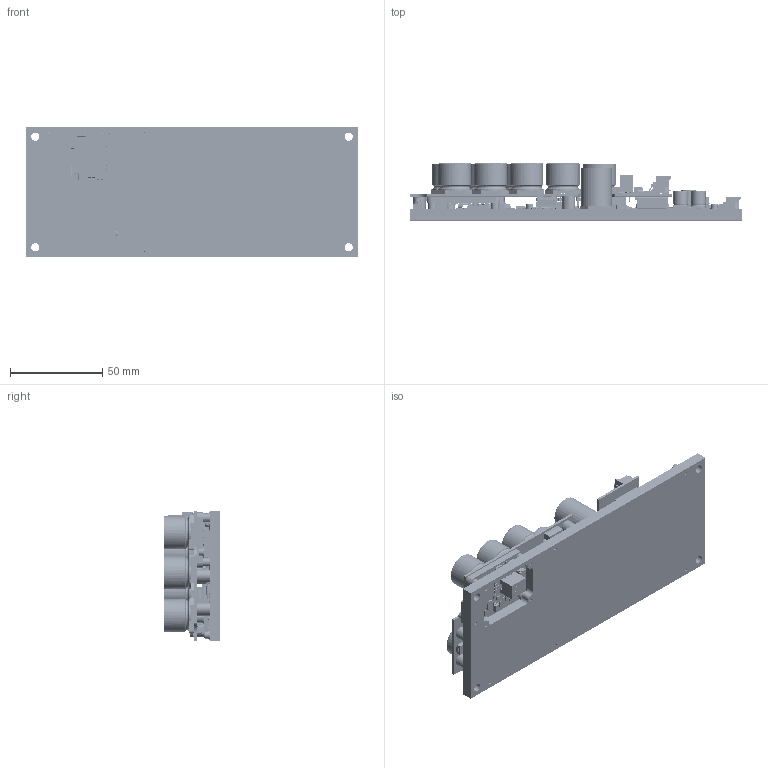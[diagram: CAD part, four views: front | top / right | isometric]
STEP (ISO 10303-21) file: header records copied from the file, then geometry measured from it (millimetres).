
FILE_DESCRIPTION (( 'STEP AP214' ), '1' );
FILE_NAME ('468.01.00.000-A01_SDC-150A.STEP', '2025-03-09T13:37:57', ( '' ), ( '' ), 'SwSTEP 2.0', 'SolidWorks 2019', '' );
FILE_SCHEMA (( 'AUTOMOTIVE_DESIGN' ));
Length unit declared in the file: millimetre
Products named in the file (17): 468.01.00.004-A01_砑鳧罻; ﾘ琺矜 ﾌ3 DIN125; ﾘ琺矜 ﾌ2 DIN127; 468.01.00.003-A01_鎗鵻罻; 妈眚 󉞁2 ISO10642; SDC-150a-stack-rev B-asm1; 468.01.00.005-A01_砱謽闀豂膹馯罻; ﾘ琺矜 ﾌ2 DIN125; 妈眚 󉞈 DIN912; SDC-150a-stack-rev B-asm82; 妈眚 󉞆 DIN912; 468.01.00.000-A01_SDC-150A; 468.01.00.001-A01_冓儰僗闉; 妈眚 󉱭0 DIN912; 468.01.00.002-A01_Êðûøêà; ﾘ琺矜 ﾌ3 DIN127; SDC-150a-stack-rev B-asm294
Assembly tree (36 placements, depth 2):
  468.01.00.000-A01_SDC-150A
    SDC-150a-stack-rev B-asm1
    SDC-150a-stack-rev B-asm82
    SDC-150a-stack-rev B-asm294
    468.01.00.001-A01_冓儰僗闉
    468.01.00.002-A01_Êðûøêà
    468.01.00.003-A01_鎗鵻罻  x4
    468.01.00.004-A01_砑鳧罻
    468.01.00.005-A01_砱謽闀豂膹馯罻
    妈眚 󉞁2 ISO10642  x4
    ﾘ琺矜 ﾌ2 DIN125  x6
    ﾘ琺矜 ﾌ2 DIN127  x6
    妈眚 󉞈 DIN912
    妈眚 󉞆 DIN912  x5
    ﾘ琺矜 ﾌ3 DIN125
    ﾘ琺矜 ﾌ3 DIN127
    妈眚 󉱭0 DIN912
Bounding box: 180 x 30.86 x 70 mm (x, y, z)
Volume: 54677 mm3; surface area: 137009.4 mm2
Topology: 33 solids, 2581 shells, 10892 faces, 56289 edges, 47254 vertices
Faces by surface type: plane 7691, cylinder 2554, bspline 294, torus 148, sphere 125, cone 80
Entity records: 727495 total; most frequent: CARTESIAN_POINT 233379, ORIENTED_EDGE 68742, DIRECTION 62698, EDGE_CURVE 55030, VERTEX_POINT 46539, LINE 32126, VECTOR 32126, B_SPLINE_CURVE_WITH_KNOTS 17336
